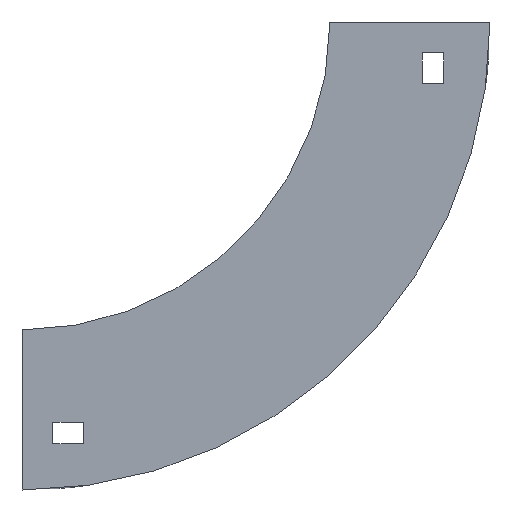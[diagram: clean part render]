
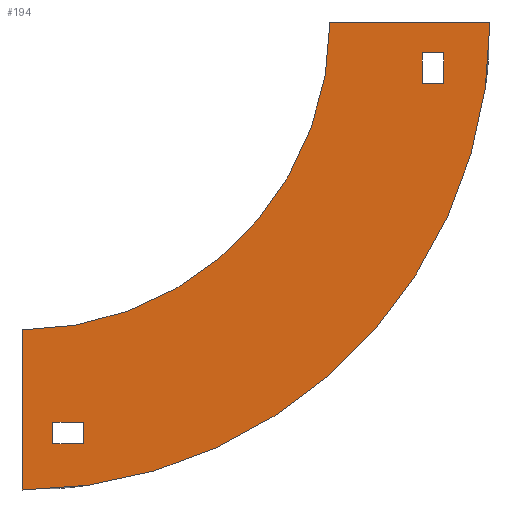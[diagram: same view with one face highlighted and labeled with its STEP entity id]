
A CAD part, left-side view. The second image highlights one B-rep face of the part: STEP entity #194.
In plain terms, the highlighted planar face has unit normal (-1, 0, 0).
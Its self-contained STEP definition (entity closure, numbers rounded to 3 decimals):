
#13 = EDGE_CURVE ( 'NONE', #479, #541, #316, .T. ) ;
#39 = ORIENTED_EDGE ( 'NONE', *, *, #673, .F. ) ;
#59 = CARTESIAN_POINT ( 'NONE',  ( -27., 90., -137. ) ) ;
#62 = DIRECTION ( 'NONE',  ( 0., -1., 0. ) ) ;
#64 = LINE ( 'NONE', #261, #563 ) ;
#108 = VECTOR ( 'NONE', #248, 1000. ) ;
#110 = CARTESIAN_POINT ( 'NONE',  ( -27., 80., -137. ) ) ;
#114 = EDGE_CURVE ( 'NONE', #266, #287, #743, .T. ) ;
#115 = FACE_OUTER_BOUND ( 'NONE', #658, .T. ) ;
#130 = VERTEX_POINT ( 'NONE', #110 ) ;
#142 = CARTESIAN_POINT ( 'NONE',  ( -27., -30., -10. ) ) ;
#152 = LINE ( 'NONE', #585, #882 ) ;
#154 = LINE ( 'NONE', #369, #1001 ) ;
#161 = CARTESIAN_POINT ( 'NONE',  ( -27., 90., -137. ) ) ;
#170 = CARTESIAN_POINT ( 'NONE',  ( -27., -30., -20. ) ) ;
#180 = EDGE_LOOP ( 'NONE', ( #589, #889, #375, #534 ) ) ;
#191 = AXIS2_PLACEMENT_3D ( 'NONE', #462, #899, #469 ) ;
#194 = ADVANCED_FACE ( 'NONE', ( #115, #835, #209 ), #306, .F. ) ;
#199 = DIRECTION ( 'NONE',  ( 0., 1., 0. ) ) ;
#206 = VECTOR ( 'NONE', #492, 1000. ) ;
#209 = FACE_BOUND ( 'NONE', #293, .T. ) ;
#220 = CARTESIAN_POINT ( 'NONE',  ( -27., 90., -130. ) ) ;
#222 = ORIENTED_EDGE ( 'NONE', *, *, #114, .F. ) ;
#225 = CARTESIAN_POINT ( 'NONE',  ( -27., 90., -130. ) ) ;
#232 = CARTESIAN_POINT ( 'NONE',  ( -27., -52., 0. ) ) ;
#238 = CARTESIAN_POINT ( 'NONE',  ( -27., -30., -10. ) ) ;
#248 = DIRECTION ( 'NONE',  ( 0., -1., 0. ) ) ;
#261 = CARTESIAN_POINT ( 'NONE',  ( -27., -37., -10. ) ) ;
#266 = VERTEX_POINT ( 'NONE', #846 ) ;
#274 = VERTEX_POINT ( 'NONE', #598 ) ;
#287 = VERTEX_POINT ( 'NONE', #220 ) ;
#293 = EDGE_LOOP ( 'NONE', ( #406, #222, #489, #299 ) ) ;
#299 = ORIENTED_EDGE ( 'NONE', *, *, #955, .F. ) ;
#306 = PLANE ( 'NONE',  #698 ) ;
#316 = LINE ( 'NONE', #232, #470 ) ;
#351 = DIRECTION ( 'NONE',  ( 0., 1., 0. ) ) ;
#355 = CARTESIAN_POINT ( 'NONE',  ( -27., 100., 0. ) ) ;
#369 = CARTESIAN_POINT ( 'NONE',  ( -27., 80., -130. ) ) ;
#374 = DIRECTION ( 'NONE',  ( 0., 0., -1. ) ) ;
#375 = ORIENTED_EDGE ( 'NONE', *, *, #1042, .T. ) ;
#406 = ORIENTED_EDGE ( 'NONE', *, *, #509, .F. ) ;
#417 = VERTEX_POINT ( 'NONE', #530 ) ;
#418 = LINE ( 'NONE', #961, #1107 ) ;
#438 = LINE ( 'NONE', #963, #108 ) ;
#462 = CARTESIAN_POINT ( 'NONE',  ( -27., 100., 0. ) ) ;
#469 = DIRECTION ( 'NONE',  ( 0., 0., -1. ) ) ;
#470 = VECTOR ( 'NONE', #62, 1000. ) ;
#471 = DIRECTION ( 'NONE',  ( 1., 0., 0. ) ) ;
#479 = VERTEX_POINT ( 'NONE', #1145 ) ;
#489 = ORIENTED_EDGE ( 'NONE', *, *, #1074, .F. ) ;
#492 = DIRECTION ( 'NONE',  ( 0., 0., 1. ) ) ;
#500 = AXIS2_PLACEMENT_3D ( 'NONE', #355, #1144, #713 ) ;
#509 = EDGE_CURVE ( 'NONE', #287, #1052, #1014, .T. ) ;
#524 = VECTOR ( 'NONE', #776, 1000. ) ;
#530 = CARTESIAN_POINT ( 'NONE',  ( -27., -37., -10. ) ) ;
#534 = ORIENTED_EDGE ( 'NONE', *, *, #649, .T. ) ;
#541 = VERTEX_POINT ( 'NONE', #918 ) ;
#563 = VECTOR ( 'NONE', #811, 1000. ) ;
#565 = CARTESIAN_POINT ( 'NONE',  ( -27., 100., 0. ) ) ;
#579 = LINE ( 'NONE', #238, #206 ) ;
#585 = CARTESIAN_POINT ( 'NONE',  ( -27., 100., -100. ) ) ;
#589 = ORIENTED_EDGE ( 'NONE', *, *, #873, .T. ) ;
#598 = CARTESIAN_POINT ( 'NONE',  ( -27., 100., -152. ) ) ;
#605 = VECTOR ( 'NONE', #199, 1000. ) ;
#649 = EDGE_CURVE ( 'NONE', #986, #1079, #418, .T. ) ;
#658 = EDGE_LOOP ( 'NONE', ( #1072, #39, #840, #866 ) ) ;
#673 = EDGE_CURVE ( 'NONE', #274, #1146, #152, .T. ) ;
#696 = CARTESIAN_POINT ( 'NONE',  ( -27., -37., -20. ) ) ;
#698 = AXIS2_PLACEMENT_3D ( 'NONE', #565, #471, #374 ) ;
#713 = DIRECTION ( 'NONE',  ( 0., 0., -1. ) ) ;
#743 = LINE ( 'NONE', #994, #605 ) ;
#755 = CIRCLE ( 'NONE', #191, 100. ) ;
#776 = DIRECTION ( 'NONE',  ( 0., 0., -1. ) ) ;
#811 = DIRECTION ( 'NONE',  ( 0., 0., -1. ) ) ;
#835 = FACE_BOUND ( 'NONE', #180, .T. ) ;
#840 = ORIENTED_EDGE ( 'NONE', *, *, #951, .F. ) ;
#846 = CARTESIAN_POINT ( 'NONE',  ( -27., 80., -130. ) ) ;
#866 = ORIENTED_EDGE ( 'NONE', *, *, #13, .F. ) ;
#873 = EDGE_CURVE ( 'NONE', #1079, #954, #579, .T. ) ;
#882 = VECTOR ( 'NONE', #1037, 1000. ) ;
#889 = ORIENTED_EDGE ( 'NONE', *, *, #904, .T. ) ;
#890 = DIRECTION ( 'NONE',  ( 0., 0., 1. ) ) ;
#899 = DIRECTION ( 'NONE',  ( -1., 0., 0. ) ) ;
#904 = EDGE_CURVE ( 'NONE', #954, #417, #438, .T. ) ;
#918 = CARTESIAN_POINT ( 'NONE',  ( -27., -52., 0. ) ) ;
#950 = DIRECTION ( 'NONE',  ( 0., -1., 0. ) ) ;
#951 = EDGE_CURVE ( 'NONE', #541, #274, #1000, .T. ) ;
#954 = VERTEX_POINT ( 'NONE', #142 ) ;
#955 = EDGE_CURVE ( 'NONE', #1052, #130, #1134, .T. ) ;
#961 = CARTESIAN_POINT ( 'NONE',  ( -27., -30., -20. ) ) ;
#963 = CARTESIAN_POINT ( 'NONE',  ( -27., -30., -10. ) ) ;
#986 = VERTEX_POINT ( 'NONE', #696 ) ;
#994 = CARTESIAN_POINT ( 'NONE',  ( -27., 90., -130. ) ) ;
#1000 = CIRCLE ( 'NONE', #500, 152. ) ;
#1001 = VECTOR ( 'NONE', #890, 1000. ) ;
#1014 = LINE ( 'NONE', #225, #524 ) ;
#1037 = DIRECTION ( 'NONE',  ( 0., 0., 1. ) ) ;
#1042 = EDGE_CURVE ( 'NONE', #417, #986, #64, .T. ) ;
#1052 = VERTEX_POINT ( 'NONE', #161 ) ;
#1072 = ORIENTED_EDGE ( 'NONE', *, *, #1143, .F. ) ;
#1074 = EDGE_CURVE ( 'NONE', #130, #266, #154, .T. ) ;
#1079 = VERTEX_POINT ( 'NONE', #170 ) ;
#1093 = CARTESIAN_POINT ( 'NONE',  ( -27., 100., -100. ) ) ;
#1107 = VECTOR ( 'NONE', #351, 1000. ) ;
#1134 = LINE ( 'NONE', #59, #1148 ) ;
#1143 = EDGE_CURVE ( 'NONE', #1146, #479, #755, .T. ) ;
#1144 = DIRECTION ( 'NONE',  ( 1., 0., 0. ) ) ;
#1145 = CARTESIAN_POINT ( 'NONE',  ( -27., 0., 0. ) ) ;
#1146 = VERTEX_POINT ( 'NONE', #1093 ) ;
#1148 = VECTOR ( 'NONE', #950, 1000. ) ;
